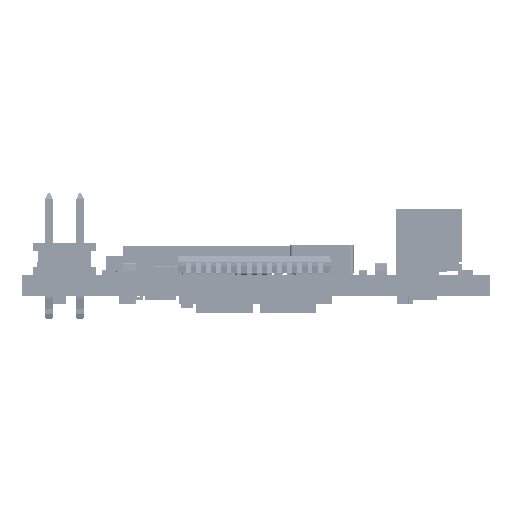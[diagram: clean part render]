
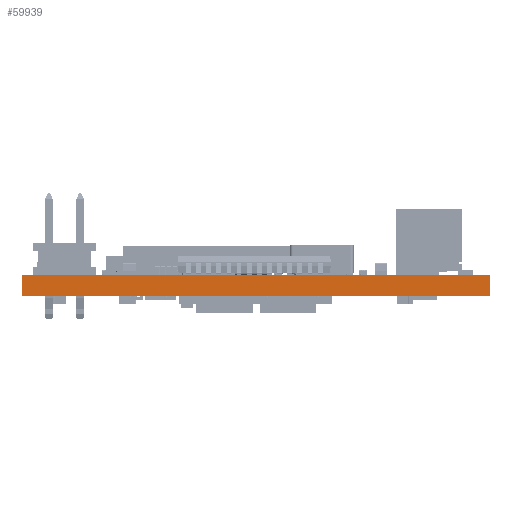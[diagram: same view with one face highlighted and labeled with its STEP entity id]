
A CAD part, left-side view. The second image highlights one B-rep face of the part: STEP entity #59939.
In plain terms, the highlighted planar face has unit normal (-1, 0, 0).
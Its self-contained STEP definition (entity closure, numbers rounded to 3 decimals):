
#29205=FACE_OUTER_BOUND($,#39811,.T.);
#39811=EDGE_LOOP($,(#83794,#83795,#83796,#83797));
#50806=PLANE($,#71787);
#59939=ADVANCED_FACE($,(#29205),#50806,.T.);
#71787=AXIS2_PLACEMENT_3D($,#283286,#235541,$);
#83794=ORIENTED_EDGE($,*,*,#121277,.T.);
#83795=ORIENTED_EDGE($,*,*,#121310,.T.);
#83796=ORIENTED_EDGE($,*,*,#121293,.F.);
#83797=ORIENTED_EDGE($,*,*,#121309,.F.);
#121277=EDGE_CURVE($,#207116,#207117,#179269,.T.);
#121293=EDGE_CURVE($,#207133,#207134,#179281,.T.);
#121309=EDGE_CURVE($,#207116,#207133,#179293,.T.);
#121310=EDGE_CURVE($,#207117,#207134,#179294,.T.);
#151422=VECTOR($,#235500,30.);
#151434=VECTOR($,#235512,30.);
#151446=VECTOR($,#235524,1.328);
#151447=VECTOR($,#235525,1.328);
#179269=LINE($,#283286,#151422);
#179281=LINE($,#283307,#151434);
#179293=LINE($,#283286,#151446);
#179294=LINE($,#283287,#151447);
#207116=VERTEX_POINT($,#283286);
#207117=VERTEX_POINT($,#283287);
#207133=VERTEX_POINT($,#283307);
#207134=VERTEX_POINT($,#283308);
#235500=DIRECTION($,(0.,1.,0.));
#235512=DIRECTION($,(0.,1.,0.));
#235524=DIRECTION($,(0.,0.,-1.));
#235525=DIRECTION($,(0.,0.,-1.));
#235541=DIRECTION($,(-1.,0.,0.));
#283286=CARTESIAN_POINT('',(0.,0.,0.));
#283287=CARTESIAN_POINT('',(0.,30.,0.));
#283307=CARTESIAN_POINT('',(0.,0.,-1.328));
#283308=CARTESIAN_POINT('',(0.,30.,-1.328));
